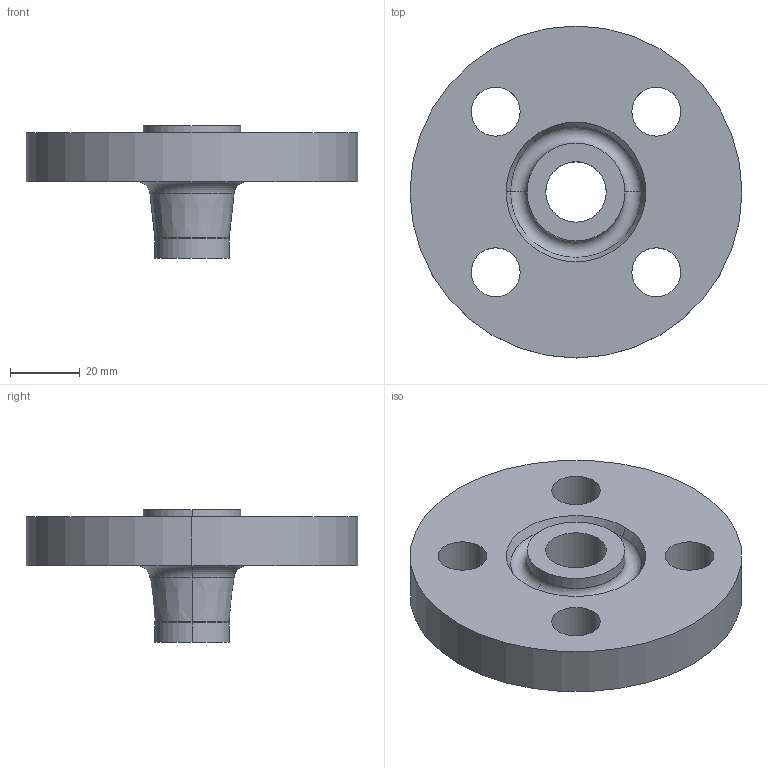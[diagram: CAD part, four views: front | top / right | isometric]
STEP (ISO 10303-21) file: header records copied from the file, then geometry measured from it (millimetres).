
FILE_DESCRIPTION (( 'STEP AP214' ), '1' );
FILE_NAME ('PN40 DN15 Type 11 - Type H Face.STEP', '2018-12-29T15:02:19', ( '' ), ( '' ), 'SwSTEP 2.0', 'SolidWorks 2019', '' );
FILE_SCHEMA (( 'AUTOMOTIVE_DESIGN' ));
Length unit declared in the file: millimetre
Products named in the file (1): PN40 DN15 Type 11 - Type H Face
Bounding box: 95 x 95 x 38 mm (x, y, z)
Volume: 90055.7 mm3; surface area: 23222.5 mm2
Topology: 1 solids, 1 shells, 30 faces, 68 edges, 42 vertices
Faces by surface type: cylinder 16, torus 6, cone 4, plane 4
Entity records: 914 total; most frequent: DIRECTION 178, CARTESIAN_POINT 141, ORIENTED_EDGE 136, AXIS2_PLACEMENT_3D 79, EDGE_CURVE 68, CIRCLE 48, VERTEX_POINT 42, EDGE_LOOP 42
